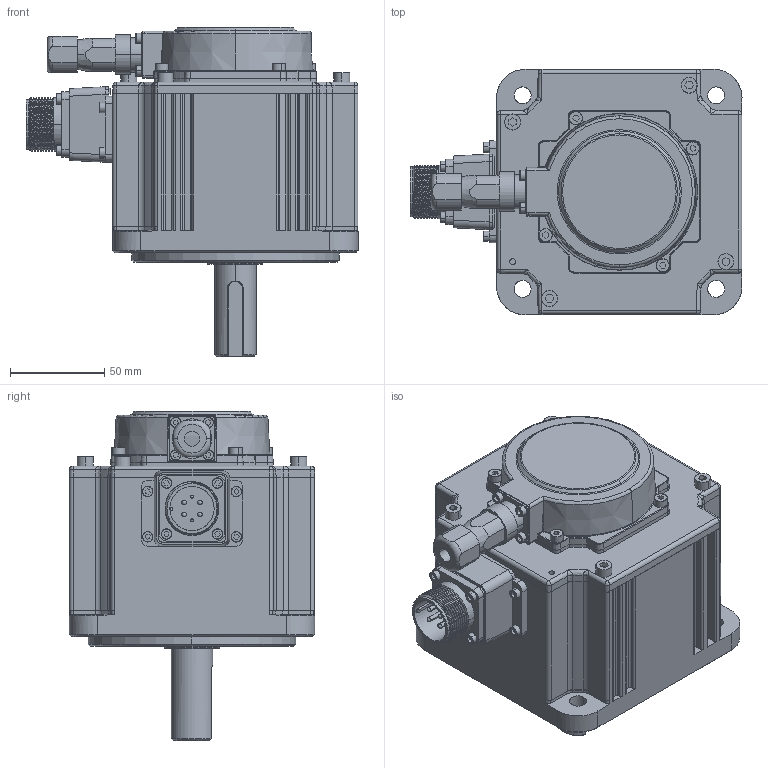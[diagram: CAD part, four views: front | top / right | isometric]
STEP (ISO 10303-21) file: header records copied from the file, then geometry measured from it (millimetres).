
FILE_DESCRIPTION(('FreeCAD Model'),'2;1');
FILE_NAME('Open CASCADE Shape Model','2025-03-19T09:45:43',('Author'),( ''),'Open CASCADE STEP processor 7.6','FreeCAD','Unknown');
FILE_SCHEMA(('AUTOMOTIVE_DESIGN { 1 0 10303 214 1 1 1 1 }'));
Length unit declared in the file: millimetre
Products named in the file (36): PSM6G-130CS25B2-41P0; PSM6G-130CS25B2-41P001; PSM6G-130CS25B2-41P002; PSM6G-130CS25B2-41P003; PSM6G-130CS25B2-41P004; PSM6G-130CS25B2-41P005; PSM6G-130CS25B2-41P006; PSM6G-130CS25B2-41P007; PSM6G-130CS25B2-41P008; PSM6G-130CS25B2-41P009; PSM6G-130CS25B2-41P010; PSM6G-130CS25B2-41P011; PSM6G-130CS25B2-41P012; PSM6G-130CS25B2-41P013; PSM6G-130CS25B2-41P014; PSM6G-130CS25B2-41P015; PSM6G-130CS25B2-41P016; PSM6G-130CS25B2-41P017; PSM6G-130CS25B2-41P018; PSM6G-130CS25B2-41P019; PSM6G-130CS25B2-41P020; PSM6G-130CS25B2-41P021; PSM6G-130CS25B2-41P022; PSM6G-130CS25B2-41P023; PSM6G-130CS25B2-41P024; PSM6G-130CS25B2-41P025; PSM6G-130CS25B2-41P026; PSM6G-130CS25B2-41P027; PSM6G-130CS25B2-41P028; PSM6G-130CS25B2-41P029; PSM6G-130CS25B2-41P030; PSM6G-130CS25B2-41P031; PSM6G-130CS25B2-41P032; PSM6G-130CS25B2-41P033; PSM6G-130CS25B2-41P034; PSM6G-130CS25B2-41P035
Assembly tree (35 placements, depth 2):
  PSM6G-130CS25B2-41P0
    PSM6G-130CS25B2-41P001
    PSM6G-130CS25B2-41P002
    PSM6G-130CS25B2-41P003
    PSM6G-130CS25B2-41P004
    PSM6G-130CS25B2-41P005
    PSM6G-130CS25B2-41P006
    PSM6G-130CS25B2-41P007
    PSM6G-130CS25B2-41P008
    PSM6G-130CS25B2-41P009
    PSM6G-130CS25B2-41P010
    PSM6G-130CS25B2-41P011
    PSM6G-130CS25B2-41P012
    PSM6G-130CS25B2-41P013
    PSM6G-130CS25B2-41P014
    PSM6G-130CS25B2-41P015
    PSM6G-130CS25B2-41P016
    PSM6G-130CS25B2-41P017
    PSM6G-130CS25B2-41P018
    PSM6G-130CS25B2-41P019
    PSM6G-130CS25B2-41P020
    PSM6G-130CS25B2-41P021
    PSM6G-130CS25B2-41P022
    PSM6G-130CS25B2-41P023
    PSM6G-130CS25B2-41P024
    PSM6G-130CS25B2-41P025
    PSM6G-130CS25B2-41P026
    PSM6G-130CS25B2-41P027
    PSM6G-130CS25B2-41P028
    PSM6G-130CS25B2-41P029
    PSM6G-130CS25B2-41P030
    PSM6G-130CS25B2-41P031
    PSM6G-130CS25B2-41P032
    PSM6G-130CS25B2-41P033
    PSM6G-130CS25B2-41P034
    PSM6G-130CS25B2-41P035
Bounding box: 175.9 x 130 x 174.5 mm (x, y, z)
Surface area: 122254.7 mm2 (no closed solid volume)
Topology: 0 solids, 35 shells, 862 faces, 2414 edges, 1573 vertices
Faces by surface type: plane 338, cylinder 274, torus 98, bspline 86, cone 57, sphere 9
Entity records: 33698 total; most frequent: CARTESIAN_POINT 11414, DIRECTION 4502, ORIENTED_EDGE 4226, EDGE_CURVE 2392, AXIS2_PLACEMENT_3D 1664, VERTEX_POINT 1573, LINE 1174, VECTOR 1174
